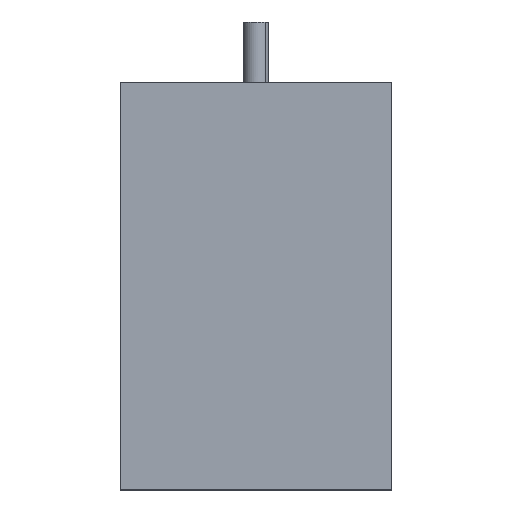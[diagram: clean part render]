
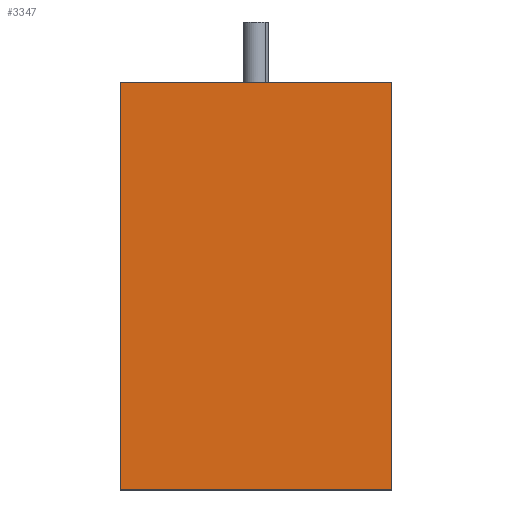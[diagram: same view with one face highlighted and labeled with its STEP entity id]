
A CAD part, top view. The second image highlights one B-rep face of the part: STEP entity #3347.
In plain terms, the highlighted planar face has unit normal (0, 0, 1).
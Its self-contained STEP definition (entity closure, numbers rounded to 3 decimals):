
#148 = CARTESIAN_POINT ( 'NONE',  ( 110., 110., 0. ) ) ;
#178 = CARTESIAN_POINT ( 'NONE',  ( 0., 110., 0. ) ) ;
#179 = ORIENTED_EDGE ( 'NONE', *, *, #1693, .F. ) ;
#187 = CARTESIAN_POINT ( 'NONE',  ( 110., 110., 0. ) ) ;
#342 = CARTESIAN_POINT ( 'NONE',  ( 0., 110., 0. ) ) ;
#508 = LINE ( 'NONE', #2670, #914 ) ;
#531 = VERTEX_POINT ( 'NONE', #1398 ) ;
#723 = DIRECTION ( 'NONE',  ( 1., 0., 0. ) ) ;
#724 = CARTESIAN_POINT ( 'NONE',  ( 0., 0., 0. ) ) ;
#759 = EDGE_CURVE ( 'NONE', #3545, #1074, #2978, .T. ) ;
#914 = VECTOR ( 'NONE', #1744, 1000. ) ;
#1074 = VERTEX_POINT ( 'NONE', #187 ) ;
#1118 = ORIENTED_EDGE ( 'NONE', *, *, #2751, .F. ) ;
#1269 = EDGE_CURVE ( 'NONE', #531, #3545, #1518, .T. ) ;
#1285 = PLANE ( 'NONE',  #1357 ) ;
#1299 = ORIENTED_EDGE ( 'NONE', *, *, #1269, .F. ) ;
#1357 = AXIS2_PLACEMENT_3D ( 'NONE', #724, #2276, #2918 ) ;
#1368 = VECTOR ( 'NONE', #2730, 1000. ) ;
#1398 = CARTESIAN_POINT ( 'NONE',  ( 0., -54.989, 0. ) ) ;
#1518 = LINE ( 'NONE', #178, #3510 ) ;
#1693 = EDGE_CURVE ( 'NONE', #1074, #2896, #3973, .T. ) ;
#1744 = DIRECTION ( 'NONE',  ( -1., 0., 0. ) ) ;
#2118 = DIRECTION ( 'NONE',  ( 0., 1., 0. ) ) ;
#2121 = CARTESIAN_POINT ( 'NONE',  ( 110., -54.989, 0. ) ) ;
#2276 = DIRECTION ( 'NONE',  ( 0., 0., 1. ) ) ;
#2389 = CARTESIAN_POINT ( 'NONE',  ( 110., 0., 0. ) ) ;
#2471 = VECTOR ( 'NONE', #723, 1000. ) ;
#2670 = CARTESIAN_POINT ( 'NONE',  ( 0., -54.989, 0. ) ) ;
#2730 = DIRECTION ( 'NONE',  ( 0., -1., 0. ) ) ;
#2751 = EDGE_CURVE ( 'NONE', #2896, #531, #508, .T. ) ;
#2896 = VERTEX_POINT ( 'NONE', #2121 ) ;
#2918 = DIRECTION ( 'NONE',  ( 1., 0., 0. ) ) ;
#2978 = LINE ( 'NONE', #148, #2471 ) ;
#3152 = FACE_OUTER_BOUND ( 'NONE', #3368, .T. ) ;
#3347 = ADVANCED_FACE ( 'NONE', ( #3152 ), #1285, .T. ) ;
#3368 = EDGE_LOOP ( 'NONE', ( #3859, #1299, #1118, #179 ) ) ;
#3510 = VECTOR ( 'NONE', #2118, 1000. ) ;
#3545 = VERTEX_POINT ( 'NONE', #342 ) ;
#3859 = ORIENTED_EDGE ( 'NONE', *, *, #759, .F. ) ;
#3973 = LINE ( 'NONE', #2389, #1368 ) ;
